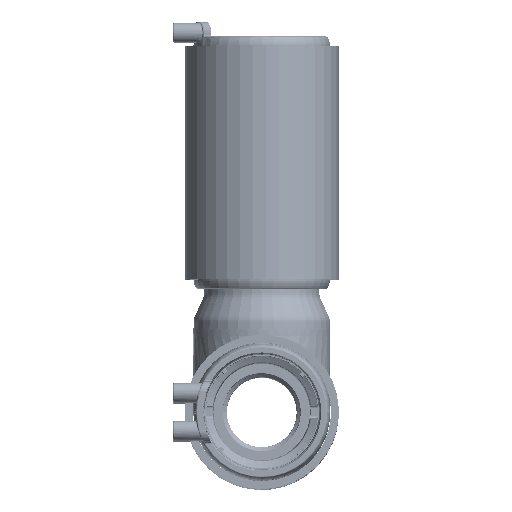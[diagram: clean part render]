
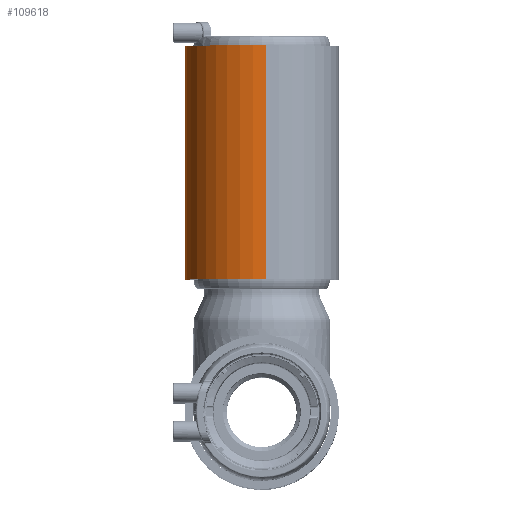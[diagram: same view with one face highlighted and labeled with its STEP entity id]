
A CAD part, top view. The second image highlights one B-rep face of the part: STEP entity #109618.
In plain terms, the highlighted cylindrical face has radius 50.75 mm (diameter 101.5 mm), a partial arc.
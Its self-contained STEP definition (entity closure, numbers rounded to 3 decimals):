
#2129 = CIRCLE ( 'NONE', #94798, 50.75 ) ;
#4489 = FACE_OUTER_BOUND ( 'NONE', #66311, .T. ) ;
#8444 = CARTESIAN_POINT ( 'NONE',  ( -28.059, 179.209, 67.524 ) ) ;
#11239 = CARTESIAN_POINT ( 'NONE',  ( -28.059, 179.209, 67.524 ) ) ;
#20386 = ORIENTED_EDGE ( 'NONE', *, *, #148919, .F. ) ;
#23267 = DIRECTION ( 'NONE',  ( 0., -1., 0. ) ) ;
#25041 = AXIS2_PLACEMENT_3D ( 'NONE', #49401, #132764, #61419 ) ;
#30860 = EDGE_CURVE ( 'NONE', #43232, #52705, #57487, .T. ) ;
#43232 = VERTEX_POINT ( 'NONE', #136206 ) ;
#49401 = CARTESIAN_POINT ( 'NONE',  ( -30.922, 25.209, 16.855 ) ) ;
#50230 = DIRECTION ( 'NONE',  ( 0., 1., 0. ) ) ;
#52705 = VERTEX_POINT ( 'NONE', #135750 ) ;
#57487 = LINE ( 'NONE', #76259, #148793 ) ;
#61419 = DIRECTION ( 'NONE',  ( -0.056, 0., -0.998 ) ) ;
#64256 = CYLINDRICAL_SURFACE ( 'NONE', #77014, 50.75 ) ;
#66311 = EDGE_LOOP ( 'NONE', ( #130283, #75974, #90165, #20386 ) ) ;
#73090 = VECTOR ( 'NONE', #23267, 1000. ) ;
#75974 = ORIENTED_EDGE ( 'NONE', *, *, #30860, .T. ) ;
#76259 = CARTESIAN_POINT ( 'NONE',  ( -33.785, 179.209, -33.814 ) ) ;
#77014 = AXIS2_PLACEMENT_3D ( 'NONE', #103052, #149986, #150494 ) ;
#79474 = CIRCLE ( 'NONE', #25041, 50.75 ) ;
#90165 = ORIENTED_EDGE ( 'NONE', *, *, #152397, .T. ) ;
#94798 = AXIS2_PLACEMENT_3D ( 'NONE', #121580, #50230, #133601 ) ;
#100189 = EDGE_CURVE ( 'NONE', #43232, #152993, #2129, .T. ) ;
#103052 = CARTESIAN_POINT ( 'NONE',  ( -30.922, 179.209, 16.855 ) ) ;
#108536 = LINE ( 'NONE', #11239, #73090 ) ;
#109618 = ADVANCED_FACE ( 'NONE', ( #4489 ), #64256, .T. ) ;
#112771 = CARTESIAN_POINT ( 'NONE',  ( -28.059, 25.209, 67.524 ) ) ;
#121580 = CARTESIAN_POINT ( 'NONE',  ( -30.922, 179.209, 16.855 ) ) ;
#124180 = DIRECTION ( 'NONE',  ( 0., -1., 0. ) ) ;
#130283 = ORIENTED_EDGE ( 'NONE', *, *, #100189, .F. ) ;
#131919 = VERTEX_POINT ( 'NONE', #112771 ) ;
#132764 = DIRECTION ( 'NONE',  ( 0., 1., 0. ) ) ;
#133601 = DIRECTION ( 'NONE',  ( -0.056, 0., -0.998 ) ) ;
#135750 = CARTESIAN_POINT ( 'NONE',  ( -33.785, 25.209, -33.814 ) ) ;
#136206 = CARTESIAN_POINT ( 'NONE',  ( -33.785, 179.209, -33.814 ) ) ;
#148793 = VECTOR ( 'NONE', #124180, 1000. ) ;
#148919 = EDGE_CURVE ( 'NONE', #152993, #131919, #108536, .T. ) ;
#149986 = DIRECTION ( 'NONE',  ( 0., -1., 0. ) ) ;
#150494 = DIRECTION ( 'NONE',  ( 0.056, 0., 0.998 ) ) ;
#152397 = EDGE_CURVE ( 'NONE', #52705, #131919, #79474, .T. ) ;
#152993 = VERTEX_POINT ( 'NONE', #8444 ) ;
